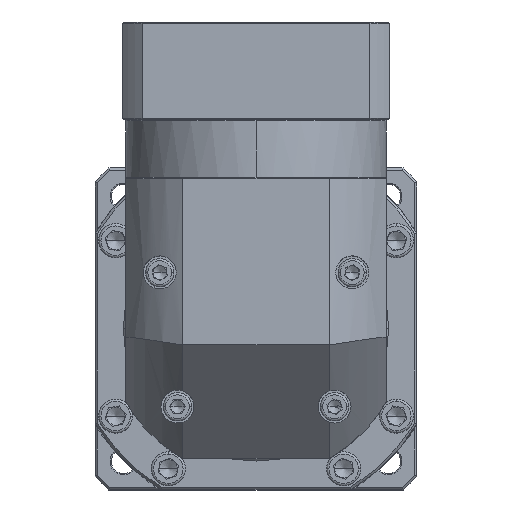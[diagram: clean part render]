
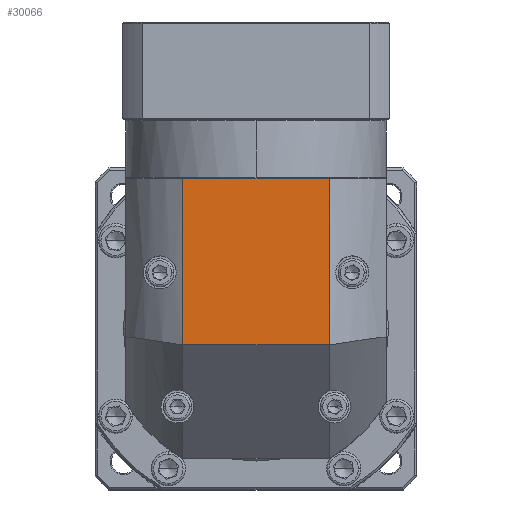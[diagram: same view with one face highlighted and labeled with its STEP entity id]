
A CAD part, top view. The second image highlights one B-rep face of the part: STEP entity #30066.
In plain terms, the highlighted planar face has unit normal (0, 0, 1).
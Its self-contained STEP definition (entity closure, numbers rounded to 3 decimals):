
#1674 = ORIENTED_EDGE ( 'NONE', *, *, #127571, .F. ) ;
#8132 = DIRECTION ( 'NONE',  ( 0., 1., 0. ) ) ;
#13468 = VERTEX_POINT ( 'NONE', #122015 ) ;
#17942 = VECTOR ( 'NONE', #8132, 1000. ) ;
#20891 = ORIENTED_EDGE ( 'NONE', *, *, #37109, .F. ) ;
#22949 = CARTESIAN_POINT ( 'NONE',  ( -197.877, 137.457, 44.397 ) ) ;
#24063 = CARTESIAN_POINT ( 'NONE',  ( -172.777, 137.457, 44.397 ) ) ;
#30066 = ADVANCED_FACE ( 'NONE', ( #49904 ), #146700, .F. ) ;
#37109 = EDGE_CURVE ( 'NONE', #134218, #45790, #132899, .T. ) ;
#45790 = VERTEX_POINT ( 'NONE', #121221 ) ;
#49904 = FACE_OUTER_BOUND ( 'NONE', #67541, .T. ) ;
#51393 = VERTEX_POINT ( 'NONE', #93471 ) ;
#59263 = VECTOR ( 'NONE', #63534, 1000. ) ;
#63534 = DIRECTION ( 'NONE',  ( -1., 0., 0. ) ) ;
#67541 = EDGE_LOOP ( 'NONE', ( #111331, #70351, #1674, #20891 ) ) ;
#70351 = ORIENTED_EDGE ( 'NONE', *, *, #92835, .F. ) ;
#74803 = EDGE_CURVE ( 'NONE', #51393, #134218, #78501, .T. ) ;
#78501 = LINE ( 'NONE', #109267, #17942 ) ;
#79146 = DIRECTION ( 'NONE',  ( 1., 0., 0. ) ) ;
#82471 = LINE ( 'NONE', #88286, #135852 ) ;
#88286 = CARTESIAN_POINT ( 'NONE',  ( -107.977, 14.057, 44.397 ) ) ;
#88519 = DIRECTION ( 'NONE',  ( 0., 0., -1. ) ) ;
#89556 = LINE ( 'NONE', #120202, #59263 ) ;
#92281 = DIRECTION ( 'NONE',  ( 0., -1., 0. ) ) ;
#92835 = EDGE_CURVE ( 'NONE', #13468, #51393, #89556, .T. ) ;
#93471 = CARTESIAN_POINT ( 'NONE',  ( -172.777, 64.057, 44.397 ) ) ;
#106260 = VECTOR ( 'NONE', #79146, 1000. ) ;
#109267 = CARTESIAN_POINT ( 'NONE',  ( -172.777, 14.057, 44.397 ) ) ;
#111331 = ORIENTED_EDGE ( 'NONE', *, *, #74803, .F. ) ;
#111984 = DIRECTION ( 'NONE',  ( 1., 0., 0. ) ) ;
#118256 = AXIS2_PLACEMENT_3D ( 'NONE', #145243, #88519, #111984 ) ;
#120202 = CARTESIAN_POINT ( 'NONE',  ( -197.877, 64.057, 44.397 ) ) ;
#121221 = CARTESIAN_POINT ( 'NONE',  ( -107.977, 137.457, 44.397 ) ) ;
#122015 = CARTESIAN_POINT ( 'NONE',  ( -107.977, 64.057, 44.397 ) ) ;
#127571 = EDGE_CURVE ( 'NONE', #45790, #13468, #82471, .T. ) ;
#132899 = LINE ( 'NONE', #22949, #106260 ) ;
#134218 = VERTEX_POINT ( 'NONE', #24063 ) ;
#135852 = VECTOR ( 'NONE', #92281, 1000. ) ;
#145243 = CARTESIAN_POINT ( 'NONE',  ( -140.377, 71.557, 44.397 ) ) ;
#146700 = PLANE ( 'NONE',  #118256 ) ;
